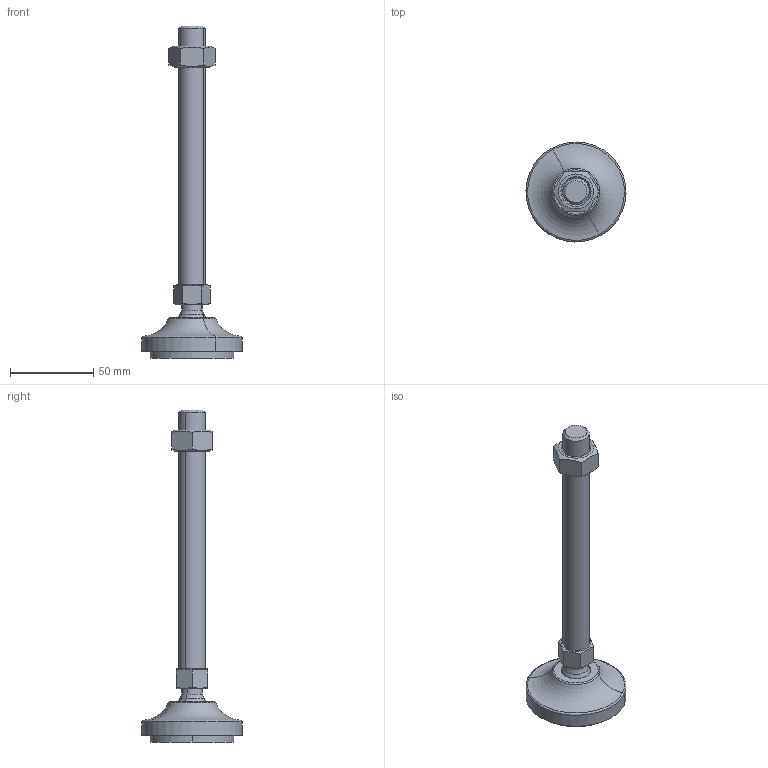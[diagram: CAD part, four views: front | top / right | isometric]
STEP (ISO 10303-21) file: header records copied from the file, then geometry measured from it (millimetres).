
FILE_DESCRIPTION(('CATIA V5 STEP Exchange'),'2;1');
FILE_NAME('C:\Users\ALI OZGUN\Desktop\alhan\saplama2\560601621AV.stp','2017-09-21T10:29:42+00:00',('none'),('none'),'CATIA Version 5 Release 21 GA (IN-10)','CATIA V5 STEP AP203','none');
FILE_SCHEMA(('CONFIG_CONTROL_DESIGN'));
Length unit declared in the file: millimetre
Products named in the file (1): 560601621AV
Bounding box: 59.98 x 59.98 x 199 mm (x, y, z)
Volume: 84455.6 mm3; surface area: 26399 mm2
Topology: 4 solids, 4 shells, 64 faces, 142 edges, 87 vertices
Faces by surface type: plane 22, cylinder 16, cone 16, torus 6, revolution 2, sphere 2
Entity records: 1931 total; most frequent: CARTESIAN_POINT 623, ORIENTED_EDGE 280, DIRECTION 198, EDGE_CURVE 140, AXIS2_PLACEMENT_3D 107, VERTEX_POINT 87, EDGE_LOOP 71, ADVANCED_FACE 64
